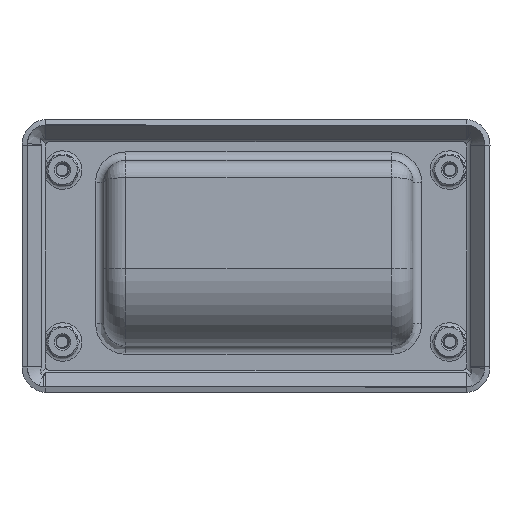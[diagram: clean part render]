
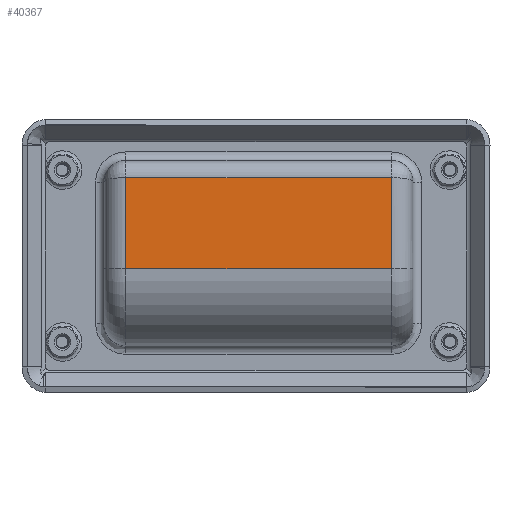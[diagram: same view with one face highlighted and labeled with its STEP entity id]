
A CAD part, top view. The second image highlights one B-rep face of the part: STEP entity #40367.
In plain terms, the highlighted planar face has unit normal (0, 0, 1).
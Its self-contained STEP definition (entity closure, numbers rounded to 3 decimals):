
#17194=DIRECTION('',(-1.,0.,0.));
#17195=VECTOR('',#17194,61.8);
#17196=CARTESIAN_POINT('',(86.25,29.,15.1));
#17197=LINE('',#17196,#17195);
#17198=DIRECTION('',(0.,-1.,0.));
#17199=VECTOR('',#17198,21.2);
#17200=CARTESIAN_POINT('',(86.25,50.2,15.1));
#17201=LINE('',#17200,#17199);
#17213=CARTESIAN_POINT('',(24.45,50.2,15.1));
#17215=DIRECTION('',(0.,-1.,0.));
#17216=VECTOR('',#17215,21.2);
#17217=CARTESIAN_POINT('',(24.45,50.2,15.1));
#17218=LINE('',#17217,#17216);
#17228=DIRECTION('',(-1.,0.,0.));
#17229=VECTOR('',#17228,61.8);
#17230=CARTESIAN_POINT('',(86.25,50.2,15.1));
#17231=LINE('',#17230,#17229);
#17352=CARTESIAN_POINT('',(86.25,29.,15.1));
#17353=VERTEX_POINT('',#17352);
#17354=CARTESIAN_POINT('',(24.45,29.,15.1));
#17355=VERTEX_POINT('',#17354);
#17368=CARTESIAN_POINT('',(86.25,50.2,15.1));
#17369=VERTEX_POINT('',#17368);
#17370=VERTEX_POINT('',#17213);
#40354=CARTESIAN_POINT('',(55.35,39.6,15.1));
#40355=DIRECTION('',(0.,0.,1.));
#40356=DIRECTION('',(1.,0.,0.));
#40357=AXIS2_PLACEMENT_3D('',#40354,#40355,#40356);
#40358=PLANE('',#40357);
#40359=ORIENTED_EDGE('',*,*,#40121,.T.);
#40361=ORIENTED_EDGE('',*,*,#40360,.F.);
#40363=ORIENTED_EDGE('',*,*,#40362,.F.);
#40364=ORIENTED_EDGE('',*,*,#40349,.T.);
#40365=EDGE_LOOP('',(#40359,#40361,#40363,#40364));
#40366=FACE_OUTER_BOUND('',#40365,.F.);
#40367=ADVANCED_FACE('',(#40366),#40358,.T.);
#40121=EDGE_CURVE('',#17353,#17355,#17197,.T.);
#40349=EDGE_CURVE('',#17369,#17353,#17201,.T.);
#40360=EDGE_CURVE('',#17370,#17355,#17218,.T.);
#40362=EDGE_CURVE('',#17369,#17370,#17231,.T.);
